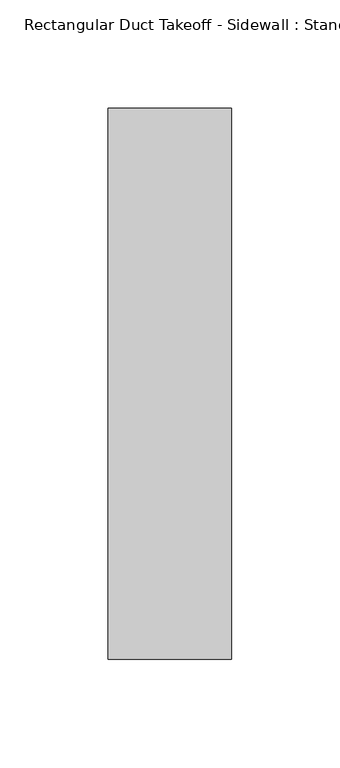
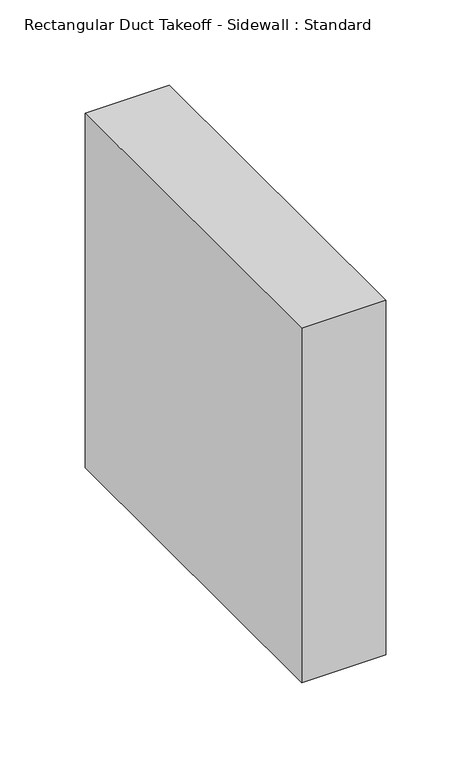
"""IFC4 building model written with IfcOpenShell, lengths in millimetres: duct fitting geometry, Rectangular Duct Takeoff - Sidewall : Standard."""

from ifc_helpers import new_model, si_unit, frame, origin, place, context, project, spatial, polyline, outline, extrude, source, transform, mapped, element, save


def rectangular_duct_takeoff_sidewall_standard_de4d9739(model_context):
    return source(origin(), model_context, "Body", "SweptSolid", [
        extrude(outline(polyline([(-6.096, 127.0), (50.8, 127.0), (50.8, -127.0), (-6.096, -127.0), (-6.096, 127.0)])), frame((0.0, 0.0, -127.0), z_axis=(0.0, 0.0, 1.0), x_axis=(1.0, 0.0, 0.0)), (0.0, 0.0, 1.0), 254.0),
        extrude(outline(polyline([(-6.096, 127.0), (50.8, 127.0), (50.8, -127.0), (-6.096, -127.0), (-6.096, 127.0)])), frame((0.0, 0.0, -127.0), z_axis=(0.0, 0.0, 1.0), x_axis=(1.0, 0.0, 0.0)), (0.0, 0.0, 1.0), 254.0),
        extrude(outline(polyline([(-6.096, 127.0), (50.8, 127.0), (50.8, -127.0), (-6.096, -127.0), (-6.096, 127.0)])), frame((0.0, 0.0, -127.0), z_axis=(0.0, 0.0, 1.0), x_axis=(1.0, 0.0, 0.0)), (0.0, 0.0, 1.0), 254.0),
    ])


if __name__ == "__main__":
    model = new_model("IFC4")
    model_context = context("Model", 3, world=origin())
    ifc_project = project(units=[si_unit("LENGTHUNIT", "METRE", prefix="MILLI")], contexts=[model_context])
    site = spatial("IfcSite", under=ifc_project)
    building = spatial("IfcBuilding", under=site)
    placement = place(None, origin())
    rectangular_duct_takeoff_sidewall_standard_shape = rectangular_duct_takeoff_sidewall_standard_de4d9739(model_context)
    element("IfcDuctFitting", 1, ObjectType="Rectangular Duct Takeoff - Sidewall : Standard", at=placement, inside=building, context=model_context, shape_type="MappedRepresentation", body=[
        mapped(rectangular_duct_takeoff_sidewall_standard_shape, transform((0.0, 0.0, 0.0), x_axis=(1.0, 0.0, 0.0), y_axis=(0.0, 1.0, 0.0), z_axis=(0.0, 0.0, 1.0))),
    ])
    save(model, "model.ifc")
